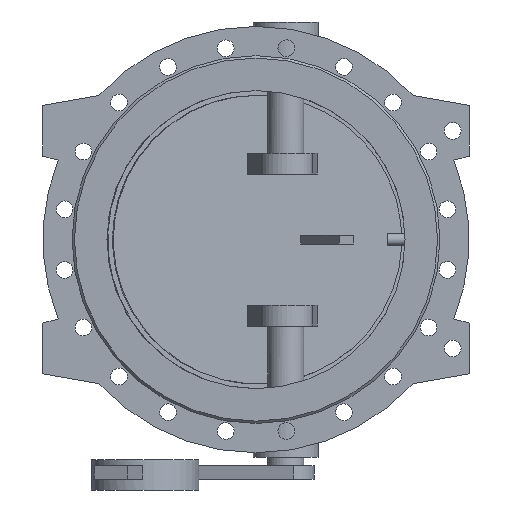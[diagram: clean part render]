
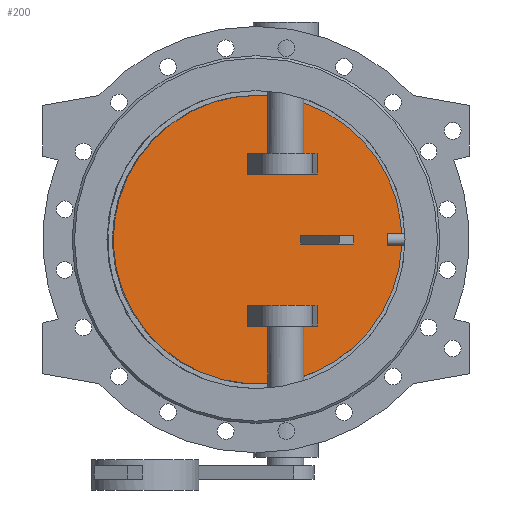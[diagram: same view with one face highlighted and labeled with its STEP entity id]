
A CAD part, front view. The second image highlights one B-rep face of the part: STEP entity #200.
In plain terms, the highlighted planar face has unit normal (0.131, -0.991, 0).
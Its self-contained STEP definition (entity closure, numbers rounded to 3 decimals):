
#200=ADVANCED_FACE('',(#1439,#1441,#1443,#1445),#1447,.T.);
#1439=FACE_BOUND('',#1440,.T.);
#1440=EDGE_LOOP('',(#2738));
#1441=FACE_BOUND('',#1442,.T.);
#1442=EDGE_LOOP('',(#2739,#2740,#2741,#2742));
#1443=FACE_BOUND('',#1444,.T.);
#1444=EDGE_LOOP('',(#2743,#2744,#2745,#2746));
#1445=FACE_BOUND('',#1446,.T.);
#1446=EDGE_LOOP('',(#2747,#2748,#2749,#2750));
#1447=PLANE('',#1448);
#1448=AXIS2_PLACEMENT_3D('',#1449,#1450,#1451);
#1449=CARTESIAN_POINT('',(-1.272,9.66,0.));
#1450=DIRECTION('',(0.131,-0.991,0.));
#1451=DIRECTION('',(0.,0.,-1.));
#2738=ORIENTED_EDGE('',*,*,#3285,.T.);
#2739=ORIENTED_EDGE('',*,*,#3289,.F.);
#2740=ORIENTED_EDGE('',*,*,#3290,.F.);
#2741=ORIENTED_EDGE('',*,*,#3291,.F.);
#2742=ORIENTED_EDGE('',*,*,#3292,.F.);
#2743=ORIENTED_EDGE('',*,*,#3293,.F.);
#2744=ORIENTED_EDGE('',*,*,#3294,.F.);
#2745=ORIENTED_EDGE('',*,*,#3295,.F.);
#2746=ORIENTED_EDGE('',*,*,#3296,.F.);
#2747=ORIENTED_EDGE('',*,*,#3297,.F.);
#2748=ORIENTED_EDGE('',*,*,#3298,.F.);
#2749=ORIENTED_EDGE('',*,*,#3299,.F.);
#2750=ORIENTED_EDGE('',*,*,#3300,.F.);
#3285=EDGE_CURVE('',#3592,#3592,#3593,.T.);
#3289=EDGE_CURVE('',#3600,#3601,#3602,.T.);
#3290=EDGE_CURVE('',#3603,#3600,#3604,.F.);
#3291=EDGE_CURVE('',#3605,#3603,#3606,.T.);
#3292=EDGE_CURVE('',#3601,#3605,#3607,.T.);
#3293=EDGE_CURVE('',#3608,#3609,#3610,.F.);
#3294=EDGE_CURVE('',#3611,#3608,#3612,.T.);
#3295=EDGE_CURVE('',#3613,#3611,#3614,.T.);
#3296=EDGE_CURVE('',#3609,#3613,#3615,.T.);
#3297=EDGE_CURVE('',#3616,#3617,#3618,.T.);
#3298=EDGE_CURVE('',#3619,#3616,#3620,.F.);
#3299=EDGE_CURVE('',#3621,#3619,#3622,.F.);
#3300=EDGE_CURVE('',#3617,#3621,#3623,.F.);
#3592=VERTEX_POINT('',#4496);
#3593=B_SPLINE_CURVE_WITH_KNOTS('',3,
(#4497,#4498,#4499,#4500,#4501,#4502,#4503,#4504,#4505,#4506,#4507,#4508,#4509,#4510,
#4511,#4512,#4513,#4514,#4515,#4516,#4517,#4518,#4519,#4520,#4521,#4522,#4523,#4524,
#4525,#4526,#4527,#4528,#4529,#4530,#4531,#4532,#4533,#4534,#4535,#4536,#4537,#4538,
#4539,#4540,#4541,#4542,#4543,#4544,#4545,#4546,#4547),
.UNSPECIFIED.,.T.,.F.,
(4,1,1,1,1,1,1,1,1,1,1,1,1,1,1,1,1,1,1,1,1,1,1,1,1,1,1,1,1,1,1,1,1,1,1,1,1,1,1,1,
1,1,1,1,1,1,1,1,4),
(0.,0.021,0.042,0.063,0.084,
0.105,0.126,0.147,0.168,0.189,
0.211,0.232,0.253,0.274,0.295,
0.316,0.337,0.358,0.379,0.4,
0.421,0.442,0.463,0.484,0.505,
0.526,0.548,0.569,0.59,0.611,
0.632,0.653,0.674,0.695,0.716,
0.737,0.758,0.779,0.8,0.821,
0.843,0.864,0.885,0.906,0.927,
0.948,0.969,0.986,1.),
.UNSPECIFIED.);
#3600=VERTEX_POINT('',#4610);
#3601=VERTEX_POINT('',#4611);
#3602=LINE('',#4612,#4613);
#3603=VERTEX_POINT('',#4615);
#3604=LINE('',#4616,#4617);
#3605=VERTEX_POINT('',#4619);
#3606=LINE('',#4620,#4621);
#3607=LINE('',#4623,#4624);
#3608=VERTEX_POINT('',#4626);
#3609=VERTEX_POINT('',#4627);
#3610=LINE('',#4628,#4629);
#3611=VERTEX_POINT('',#4631);
#3612=LINE('',#4632,#4633);
#3613=VERTEX_POINT('',#4635);
#3614=LINE('',#4636,#4637);
#3615=LINE('',#4639,#4640);
#3616=VERTEX_POINT('',#4642);
#3617=VERTEX_POINT('',#4643);
#3618=LINE('',#4644,#4645);
#3619=VERTEX_POINT('',#4647);
#3620=LINE('',#4648,#4649);
#3621=VERTEX_POINT('',#4651);
#3622=LINE('',#4652,#4653);
#3623=LINE('',#4655,#4656);
#4496=CARTESIAN_POINT('',(2.611,10.171,242.));
#4497=CARTESIAN_POINT('',(2.611,10.171,242.));
#4498=CARTESIAN_POINT('',(-8.021,8.771,242.));
#4499=CARTESIAN_POINT('',(-29.311,5.969,240.596));
#4500=CARTESIAN_POINT('',(-60.73,1.832,234.3));
#4501=CARTESIAN_POINT('',(-91.089,-2.165,223.903));
#4502=CARTESIAN_POINT('',(-119.83,-5.949,209.58));
#4503=CARTESIAN_POINT('',(-146.424,-9.45,191.594));
#4504=CARTESIAN_POINT('',(-170.413,-12.608,170.255));
#4505=CARTESIAN_POINT('',(-191.375,-15.368,145.938));
#4506=CARTESIAN_POINT('',(-208.943,-17.681,119.068));
#4507=CARTESIAN_POINT('',(-222.811,-19.506,90.115));
#4508=CARTESIAN_POINT('',(-232.736,-20.813,59.585));
#4509=CARTESIAN_POINT('',(-238.543,-21.577,28.012));
#4510=CARTESIAN_POINT('',(-240.132,-21.787,-4.05));
#4511=CARTESIAN_POINT('',(-237.474,-21.437,-36.041));
#4512=CARTESIAN_POINT('',(-230.616,-20.534,-67.401));
#4513=CARTESIAN_POINT('',(-219.679,-19.094,-97.581));
#4514=CARTESIAN_POINT('',(-204.855,-17.142,-126.053));
#4515=CARTESIAN_POINT('',(-186.401,-14.713,-152.321));
#4516=CARTESIAN_POINT('',(-164.642,-11.848,-175.924));
#4517=CARTESIAN_POINT('',(-139.958,-8.598,-196.45));
#4518=CARTESIAN_POINT('',(-112.779,-5.02,-213.541));
#4519=CARTESIAN_POINT('',(-83.582,-1.176,-226.897));
#4520=CARTESIAN_POINT('',(-52.876,2.866,-236.284));
#4521=CARTESIAN_POINT('',(-21.199,7.037,-241.538));
#4522=CARTESIAN_POINT('',(10.895,11.262,-242.566));
#4523=CARTESIAN_POINT('',(42.844,15.468,-239.352));
#4524=CARTESIAN_POINT('',(74.089,19.581,-231.95));
#4525=CARTESIAN_POINT('',(104.084,23.53,-220.49));
#4526=CARTESIAN_POINT('',(132.303,27.245,-205.174));
#4527=CARTESIAN_POINT('',(158.253,30.662,-186.269));
#4528=CARTESIAN_POINT('',(181.481,33.72,-164.105));
#4529=CARTESIAN_POINT('',(201.58,36.366,-139.07));
#4530=CARTESIAN_POINT('',(218.198,38.554,-111.603));
#4531=CARTESIAN_POINT('',(231.046,40.245,-82.182));
#4532=CARTESIAN_POINT('',(239.897,41.41,-51.324));
#4533=CARTESIAN_POINT('',(244.597,42.029,-19.568));
#4534=CARTESIAN_POINT('',(245.063,42.091,12.53));
#4535=CARTESIAN_POINT('',(241.288,41.594,44.409));
#4536=CARTESIAN_POINT('',(233.338,40.547,75.509));
#4537=CARTESIAN_POINT('',(221.353,38.969,105.289));
#4538=CARTESIAN_POINT('',(205.542,36.888,133.226));
#4539=CARTESIAN_POINT('',(186.182,34.339,158.832));
#4540=CARTESIAN_POINT('',(163.61,31.367,181.661));
#4541=CARTESIAN_POINT('',(138.229,28.026,201.308));
#4542=CARTESIAN_POINT('',(110.512,24.377,217.415));
#4543=CARTESIAN_POINT('',(80.861,20.473,229.756));
#4544=CARTESIAN_POINT('',(51.618,16.623,237.597));
#4545=CARTESIAN_POINT('',(25.327,13.162,241.321));
#4546=CARTESIAN_POINT('',(9.553,11.085,242.));
#4547=CARTESIAN_POINT('',(2.611,10.171,242.));
#4610=CARTESIAN_POINT('',(149.358,29.491,-7.5));
#4611=CARTESIAN_POINT('',(149.358,29.491,7.5));
#4612=CARTESIAN_POINT('',(149.358,29.491,-7.5));
#4613=VECTOR('',#4614,1.);
#4614=DIRECTION('',(0.,0.,1.));
#4615=CARTESIAN_POINT('',(75.,19.701,-7.5));
#4616=CARTESIAN_POINT('',(149.358,29.491,-7.5));
#4617=VECTOR('',#4618,1.);
#4618=DIRECTION('',(-0.991,-0.131,0.));
#4619=CARTESIAN_POINT('',(75.,19.701,7.5));
#4620=CARTESIAN_POINT('',(75.,19.701,7.5));
#4621=VECTOR('',#4622,1.);
#4622=DIRECTION('',(0.,0.,-1.));
#4623=CARTESIAN_POINT('',(149.358,29.491,7.5));
#4624=VECTOR('',#4625,1.);
#4625=DIRECTION('',(-0.991,-0.131,0.));
#4626=CARTESIAN_POINT('',(-14.418,7.929,-145.));
#4627=CARTESIAN_POINT('',(102.407,23.31,-145.));
#4628=CARTESIAN_POINT('',(102.407,23.31,-145.));
#4629=VECTOR('',#4630,1.);
#4630=DIRECTION('',(-0.991,-0.131,0.));
#4631=CARTESIAN_POINT('',(-14.418,7.929,-110.));
#4632=CARTESIAN_POINT('',(-14.418,7.929,-110.));
#4633=VECTOR('',#4634,1.);
#4634=DIRECTION('',(0.,0.,-1.));
#4635=CARTESIAN_POINT('',(102.407,23.31,-110.));
#4636=CARTESIAN_POINT('',(102.407,23.31,-110.));
#4637=VECTOR('',#4638,1.);
#4638=DIRECTION('',(-0.991,-0.131,0.));
#4639=CARTESIAN_POINT('',(102.407,23.31,-145.));
#4640=VECTOR('',#4641,1.);
#4641=DIRECTION('',(0.,0.,1.));
#4642=CARTESIAN_POINT('',(102.407,23.31,145.));
#4643=CARTESIAN_POINT('',(-14.418,7.929,145.));
#4644=CARTESIAN_POINT('',(102.407,23.31,145.));
#4645=VECTOR('',#4646,1.);
#4646=DIRECTION('',(-0.991,-0.131,0.));
#4647=CARTESIAN_POINT('',(102.407,23.31,110.));
#4648=CARTESIAN_POINT('',(102.407,23.31,145.));
#4649=VECTOR('',#4650,1.);
#4650=DIRECTION('',(0.,0.,-1.));
#4651=CARTESIAN_POINT('',(-14.418,7.929,110.));
#4652=CARTESIAN_POINT('',(102.407,23.31,110.));
#4653=VECTOR('',#4654,1.);
#4654=DIRECTION('',(-0.991,-0.131,0.));
#4655=CARTESIAN_POINT('',(-14.418,7.929,110.));
#4656=VECTOR('',#4657,1.);
#4657=DIRECTION('',(0.,0.,1.));
